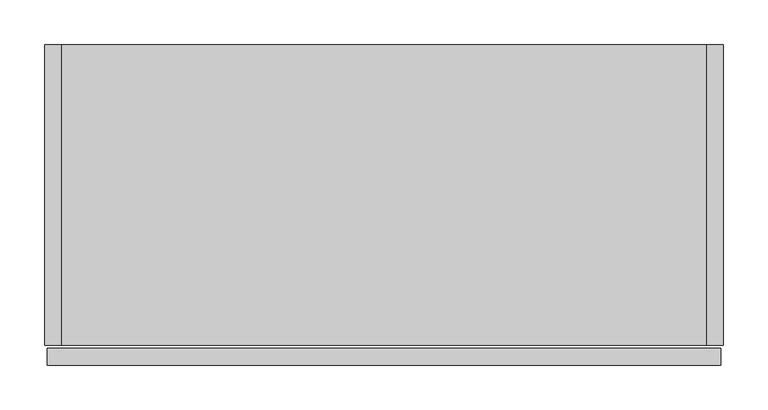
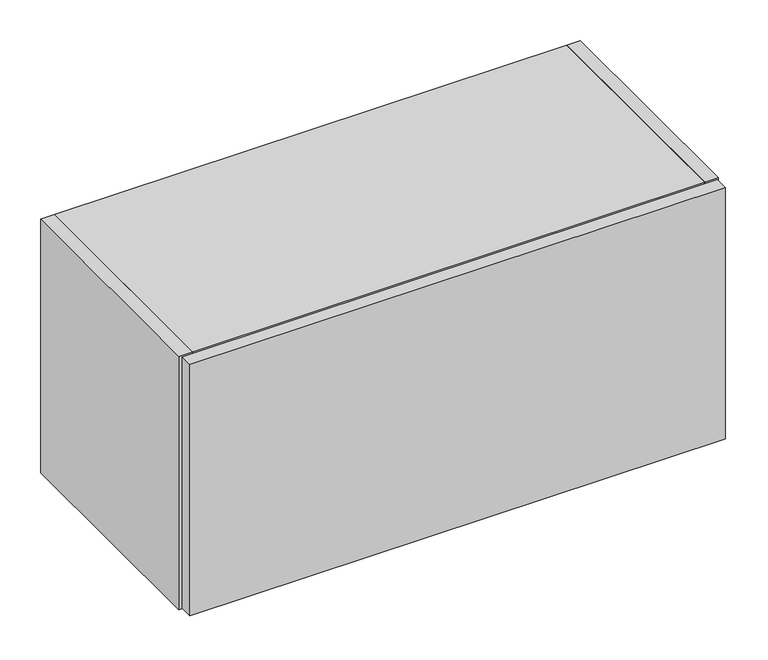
"""IFC4 building model written with IfcOpenShell, lengths in millimetres: furniture geometry, Geiger_GeigerOneCasegoods_OverheadStorageFlipUPDoor : Vertical Veneer 30Wx14.125Dx14.875H."""

from ifc_helpers import new_model, si_unit, frame, origin, origin_with_axes, place, context, project, spatial, polyline, outline, extrude, source, transform, mapped, element, save


def furniture_017632f4(model_context):
    return source(origin(), model_context, "Body", "SweptSolid", [
        extrude(outline(polyline([(3.0, -340.7), (759.0, -340.7), (759.0, -359.7), (3.0, -359.7), (3.0, -340.7)])), frame((0.0, 0.0, 3.0), z_axis=(0.0, 0.0, 1.0), x_axis=(1.0, 0.0, 0.0)), (0.0, 0.0, 1.0), 376.0),
        extrude(outline(polyline([(743.0, -337.7), (743.0, 0.0), (762.0, 0.0), (762.0, -337.7), (743.0, -337.7)])), origin_with_axes(), (0.0, 0.0, 1.0), 379.0),
        extrude(outline(polyline([(19.0, 0.0), (19.0, -337.7), (0.0, -337.7), (0.0, 0.0), (19.0, 0.0)])), origin_with_axes(), (0.0, 0.0, 1.0), 379.0),
        extrude(outline(polyline([(19.0, -38.4930064), (19.0, -32.4930064), (743.0, -32.4930064), (743.0, -38.4930064), (19.0, -38.4930064)])), frame((0.0, 0.0, 32.0), z_axis=(0.0, 0.0, 1.0), x_axis=(1.0, 0.0, 0.0)), (0.0, 0.0, 1.0), 321.0),
        extrude(outline(polyline([(0.0, 269.5), (-2.9930064, 269.5), (-18.9930064, 297.21), (-18.9930064, 353.0), (0.0, 353.0), (0.0, 269.5)])), frame((19.0, 0.0, 0.0), z_axis=(1.0, 0.0, 0.0), x_axis=(0.0, 1.0, 0.0)), (0.0, 0.0, 1.0), 724.0),
        extrude(outline(polyline([(19.0, -18.9930064), (19.0, 0.0), (743.0, 0.0), (743.0, -18.9930064), (19.0, -18.9930064)])), frame((0.0, 0.0, 6.0), z_axis=(0.0, 0.0, 1.0), x_axis=(1.0, 0.0, 0.0)), (0.0, 0.0, 1.0), 102.5),
        extrude(outline(polyline([(19.0, -337.7), (19.0, -18.9930064), (743.0, -18.9930064), (743.0, -337.7), (19.0, -337.7)])), frame((0.0, 0.0, 0.5), z_axis=(0.0, 0.0, 1.0), x_axis=(1.0, 0.0, 0.0)), (0.0, 0.0, 1.0), 31.5),
        extrude(outline(polyline([(19.0, -337.7), (19.0, 0.0), (743.0, 0.0), (743.0, -337.7), (19.0, -337.7)])), frame((0.0, 0.0, 353.0), z_axis=(0.0, 0.0, 1.0), x_axis=(1.0, 0.0, 0.0)), (0.0, 0.0, 1.0), 26.0),
    ])


if __name__ == "__main__":
    model = new_model("IFC4")
    model_context = context("Model", 3, world=origin())
    ifc_project = project(units=[si_unit("LENGTHUNIT", "METRE", prefix="MILLI")], contexts=[model_context])
    site = spatial("IfcSite", under=ifc_project)
    building = spatial("IfcBuilding", under=site)
    placement = place(None, origin())
    furniture_shape = furniture_017632f4(model_context)
    element("IfcFurniture", 1, ObjectType="Geiger_GeigerOneCasegoods_OverheadStorageFlipUPDoor : Vertical Veneer 30Wx14.125Dx14.875H", at=placement, inside=building, context=model_context, shape_type="MappedRepresentation", body=[
        mapped(furniture_shape, transform((0.0, 0.0, 0.0), x_axis=(1.0, 0.0, 0.0), y_axis=(0.0, 1.0, 0.0), z_axis=(0.0, 0.0, 1.0))),
    ])
    save(model, "model.ifc")
